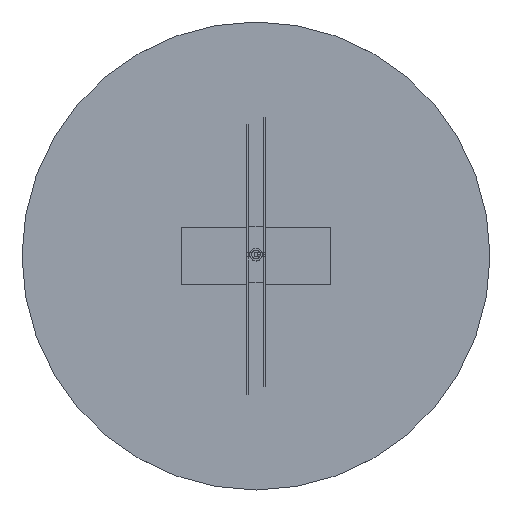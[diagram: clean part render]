
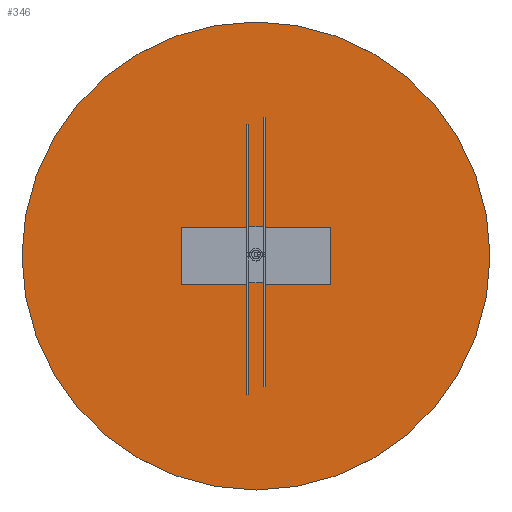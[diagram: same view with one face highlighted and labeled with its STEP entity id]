
A CAD part, top view. The second image highlights one B-rep face of the part: STEP entity #346.
In plain terms, the highlighted planar face has unit normal (0, 0, 1).
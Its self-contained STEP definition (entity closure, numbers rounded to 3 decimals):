
#346=ADVANCED_FACE('',(#705),#706,.T.);
#705=FACE_OUTER_BOUND('',#1146,.T.);
#706=PLANE('',#1147);
#1146=EDGE_LOOP('',(#1845,#1846));
#1147=AXIS2_PLACEMENT_3D('',#1847,#1848,#1849);
#1845=ORIENTED_EDGE('',*,*,#2724,.T.);
#1846=ORIENTED_EDGE('',*,*,#2725,.T.);
#1847=CARTESIAN_POINT('',(0.0,0.0,-176.0));
#1848=DIRECTION('',(0.0,0.0,1.0));
#1849=DIRECTION('',(1.0,0.0,0.0));
#2724=EDGE_CURVE('',#3320,#3321,#3322,.T.);
#2725=EDGE_CURVE('',#3321,#3320,#3323,.T.);
#3320=VERTEX_POINT('',#4143);
#3321=VERTEX_POINT('',#4144);
#3322=CIRCLE('',#4145,62.5);
#3323=CIRCLE('',#4146,62.5);
#4143=CARTESIAN_POINT('',(62.5,0.0,-176.0));
#4144=CARTESIAN_POINT('',(-62.5,0.,-176.0));
#4145=AXIS2_PLACEMENT_3D('',#4651,#4652,#4653);
#4146=AXIS2_PLACEMENT_3D('',#4654,#4655,#4656);
#4651=CARTESIAN_POINT('',(0.0,0.0,-176.0));
#4652=DIRECTION('',(0.0,0.0,1.0));
#4653=DIRECTION('',(1.0,0.0,0.0));
#4654=CARTESIAN_POINT('',(0.0,0.0,-176.0));
#4655=DIRECTION('',(0.0,0.0,1.0));
#4656=DIRECTION('',(1.0,0.0,0.0));
